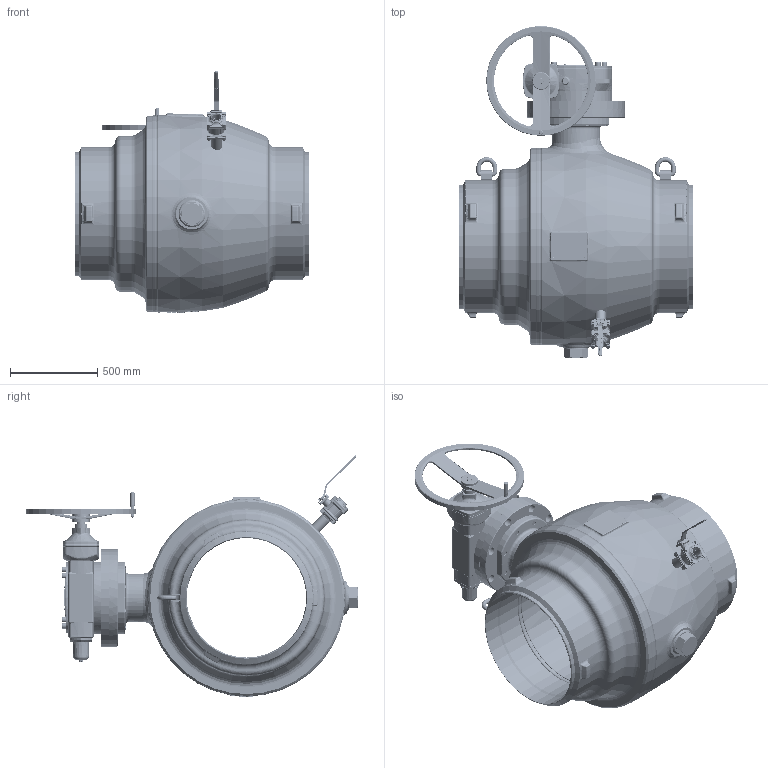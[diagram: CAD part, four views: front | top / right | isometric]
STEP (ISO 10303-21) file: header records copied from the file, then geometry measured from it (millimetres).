
FILE_DESCRIPTION((''),'2;1');
FILE_NAME('ASM0001_ASM','2026-01-28T11:23:09',('schwaba'),('KLINGER'),'CREO PARAMETRIC BY PTC INC, 2023014','CREO PARAMETRIC BY PTC INC, 2023014','');
FILE_SCHEMA(('CONFIG_CONTROL_DESIGN'));
Products named in the file (3): KHSVI_700_FR_WE_ENTL; GS200_434_F35_AHR630_DN700; ASM0001_ASM
Assembly tree (2 placements, depth 2):
  ASM0001_ASM
    KHSVI_700_FR_WE_ENTL
    GS200_434_F35_AHR630_DN700
Bounding box: 1346 x 1903 x 1387.91 mm (x, y, z)
Volume: 376487523.1 mm3; surface area: 19905634.8 mm2
Topology: 6 solids, 9 shells, 5214 faces, 12400 edges, 7349 vertices
Faces by surface type: plane 1519, cylinder 1373, torus 861, bspline 676, cone 637, sphere 109, revolution 31, extrusion 8
Entity records: 291970 total; most frequent: CARTESIAN_POINT 177182, ORIENTED_EDGE 24646, DIRECTION 23405, EDGE_CURVE 12323, AXIS2_PLACEMENT_3D 9794, VERTEX_POINT 7349, EDGE_LOOP 5574, CIRCLE 5286
